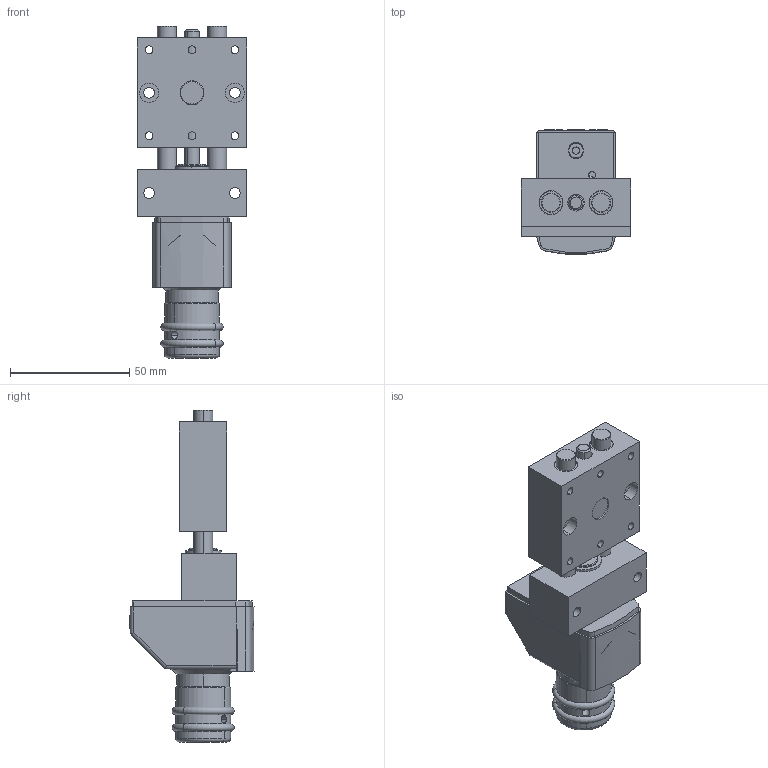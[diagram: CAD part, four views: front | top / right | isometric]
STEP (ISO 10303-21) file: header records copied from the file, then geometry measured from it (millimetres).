
FILE_DESCRIPTION (( 'STEP AP203' ), '1' );
FILE_NAME ('PT1408-PAE-Positioniertisch.STEP', '2016-01-15T17:16:38', ( '' ), ( '' ), 'SwSTEP 2.0', 'SolidWorks 2014', '' );
FILE_SCHEMA (( 'CONFIG_CONTROL_DESIGN' ));
Length unit declared in the file: millimetre
Products named in the file (4): PT1408-000-01-Festteil-PA(E); PAE0812-DT-000-Elektronischer-Positionsanzeiger-Komplett_n_Standard; PT1408-PAE-Positioniertisch; PT08-000-02-Schlitten-komplett_n_Standard
Assembly tree (3 placements, depth 2):
  PT1408-PAE-Positioniertisch
    PT1408-000-01-Festteil-PA(E)
    PAE0812-DT-000-Elektronischer-Positionsanzeiger-Komplett_n_Standard
    PT08-000-02-Schlitten-komplett_n_Standard
Bounding box: 46 x 51.97 x 139.13 mm (x, y, z)
Volume: 112900 mm3; surface area: 40211.7 mm2
Topology: 3 solids, 8 shells, 743 faces, 1876 edges, 1219 vertices
Faces by surface type: plane 391, cylinder 242, cone 100, torus 6, sphere 4
Entity records: 23481 total; most frequent: CARTESIAN_POINT 4647, DIRECTION 3937, ORIENTED_EDGE 3740, EDGE_CURVE 1870, AXIS2_PLACEMENT_3D 1393, VERTEX_POINT 1219, VECTOR 1151, LINE 1151
